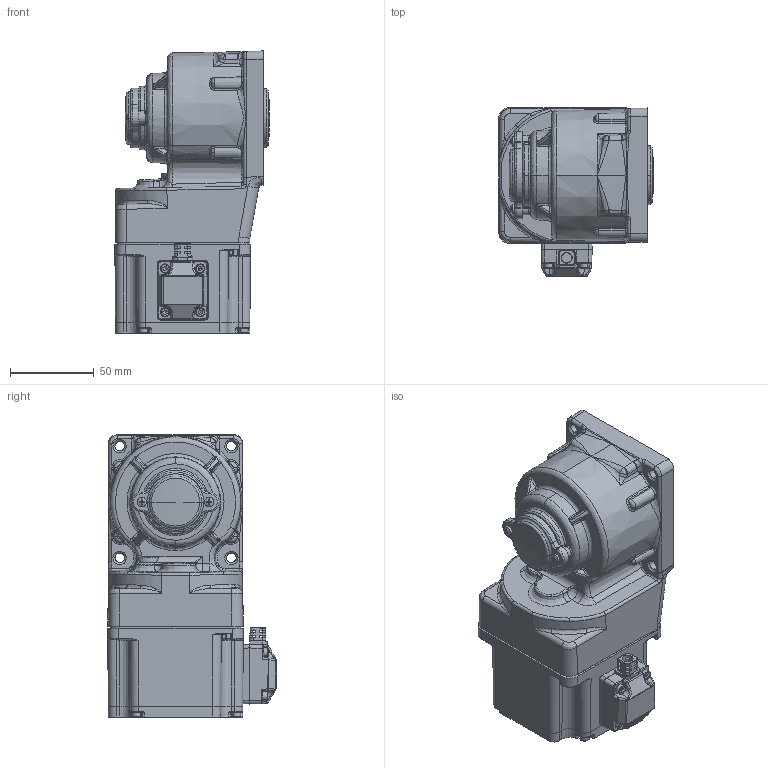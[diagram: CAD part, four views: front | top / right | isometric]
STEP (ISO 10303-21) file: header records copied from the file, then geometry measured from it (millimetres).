
FILE_DESCRIPTION (( 'STEP AP214' ), '1' );
FILE_NAME ('4GNRC2淕儂.STEP', '2024-06-05T00:24:57', ( '' ), ( '' ), 'SwSTEP 2.0', 'SolidWorks 2019', '' );
FILE_SCHEMA (( 'AUTOMOTIVE_DESIGN' ));
Length unit declared in the file: millimetre
Products named in the file (34): ^____4GNRT2(2)_4GNRT2-1.STEP; ____ (9) ^_______4GNRT2(2)_4GNRT2.STEP; 4GNRC2淕儂.STEP; ^_____4GNRT2(2)_4GNRT2.STEP; ^___4GNRT2(2)_4GNRT2.STEP; ____ (2) ^_______4GNRT2(2)_4GNRT2.STEP; ____ (11) ^_______4GNRT2(2)_4GNRT2.STEP; ____ (5) ^_______4GNRT2(2)_4GNRT2.STEP; ____ (2) ^____4GNRT2(2)_4GNRT2.STEP; ^_4GNRT2(2)_4GNRT2.STEP; ____ (3) ^____4GNRT2(2)_4GNRT2.STEP; cross recessed pan head screws gb_GB_CROSS_SCREWS_TYPE1 M3X6-6  H type-N.STEP^80RC______.STEP_Z4BLD__4GNRC_________________4GNRT2.STEP; ____ (6) ^_______4GNRT2(2)_4GNRT2.STEP; ^______4GNRT2(2)_4GNRT2.STEP; ____ (3) ^_______4GNRT2(2)_4GNRT2.STEP; 4GNRC2淕儂; ____ (12) ^_______4GNRT2(2)_4GNRT2.STEP; zd-4gn1000rc-504-001-20211209____________.STEP^80RC______.STEP_Z4BLD__4GNRC_________________4GNRT2.STEP; ^______4GNRT2(2)_4GNRT2-0.STEP; 80RC______.STEP^Z4BLD__4GNRC_________________4GNRT2.STEP; ____ (7) ^_______4GNRT2(2)_4GNRT2.STEP; ____ (10) ^_______4GNRT2(2)_4GNRT2.STEP; ^4GNRT2(2)_4GNRT2.STEP; 80__________.STEP^80RC______.STEP_Z4BLD__4GNRC_________________4GNRT2.STEP; 4GNRT2(2)^4GNRT2.STEP; ^_______4GNRT2(2)_4GNRT2.STEP; 80________.STEP^80RC______.STEP_Z4BLD__4GNRC_________________4GNRT2.STEP; 80______.STEP^80RC______.STEP_Z4BLD__4GNRC_________________4GNRT2.STEP; ____ (8) ^_______4GNRT2(2)_4GNRT2.STEP; Z4BLD__4GNRC________________^4GNRT2.STEP; ^____4GNRT2(2)_4GNRT2.STEP; hexagon socket head cap screws gb_GB_FASTENER_SCREWS_HSHCS M4X12-N.STEP^80RC______.STEP_Z4BLD__4GNRC_________________4GNRT2.STEP; ____ (4) ^_______4GNRT2(2)_4GNRT2.STEP; ^__4GNRT2(2)_4GNRT2.STEP
Assembly tree (40 placements, depth 11):
  4GNRC2淕儂
    4GNRC2淕儂.STEP
      4GNRT2(2)^4GNRT2.STEP
        ^4GNRT2(2)_4GNRT2.STEP
          ^_4GNRT2(2)_4GNRT2.STEP
            ^__4GNRT2(2)_4GNRT2.STEP
              ^___4GNRT2(2)_4GNRT2.STEP
                ^____4GNRT2(2)_4GNRT2.STEP
                  ^_____4GNRT2(2)_4GNRT2.STEP
                ^____4GNRT2(2)_4GNRT2-1.STEP
                ____ (2) ^____4GNRT2(2)_4GNRT2.STEP
                ____ (3) ^____4GNRT2(2)_4GNRT2.STEP  x4
      Z4BLD__4GNRC________________^4GNRT2.STEP
        80RC______.STEP^Z4BLD__4GNRC_________________4GNRT2.STEP
          80______.STEP^80RC______.STEP_Z4BLD__4GNRC_________________4GNRT2.STEP
          zd-4gn1000rc-504-001-20211209____________.STEP^80RC______.STEP_Z4BLD__4GNRC_________________4GNRT2.STEP
          cross recessed pan head screws gb_GB_CROSS_SCREWS_TYPE1 M3X6-6  H type-N.STEP^80RC______.STEP_Z4BLD__4GNRC_________________4GNRT2.STEP  x2
          80________.STEP^80RC______.STEP_Z4BLD__4GNRC_________________4GNRT2.STEP
          80__________.STEP^80RC______.STEP_Z4BLD__4GNRC_________________4GNRT2.STEP
          hexagon socket head cap screws gb_GB_FASTENER_SCREWS_HSHCS M4X12-N.STEP^80RC______.STEP_Z4BLD__4GNRC_________________4GNRT2.STEP  x4
Bounding box: 91.91 x 100.45 x 167.97 mm (x, y, z)
Volume: 831694.4 mm3; surface area: 149037.5 mm2
Topology: 29 solids, 30 shells, 3147 faces, 8236 edges, 5029 vertices
Faces by surface type: plane 1287, cylinder 790, bspline 485, cone 308, torus 214, sphere 63
Entity records: 125440 total; most frequent: CARTESIAN_POINT 55306, ORIENTED_EDGE 15448, DIRECTION 13057, EDGE_CURVE 7724, VERTEX_POINT 4785, AXIS2_PLACEMENT_3D 4578, LINE 3901, VECTOR 3901
